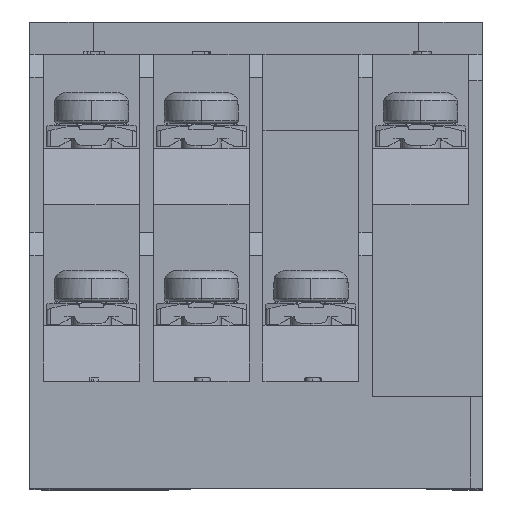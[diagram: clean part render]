
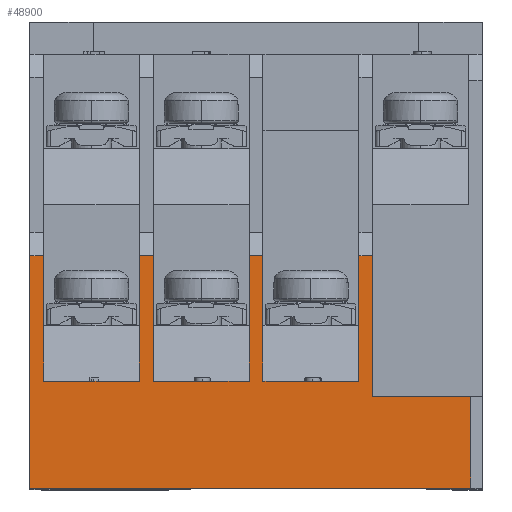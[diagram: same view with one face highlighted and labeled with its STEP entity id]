
A CAD part, top view. The second image highlights one B-rep face of the part: STEP entity #48900.
In plain terms, the highlighted planar face has unit normal (0, 0, 1).
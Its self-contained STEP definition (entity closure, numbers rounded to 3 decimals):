
#124 = LINE ( 'NONE', #10063, #84284 ) ;
#1497 = EDGE_CURVE ( 'NONE', #41073, #76070, #85433, .T. ) ;
#1560 = VECTOR ( 'NONE', #63555, 1000. ) ;
#1737 = VECTOR ( 'NONE', #48172, 1000. ) ;
#3684 = CARTESIAN_POINT ( 'NONE',  ( -3.788, -9.137, 0. ) ) ;
#7646 = DIRECTION ( 'NONE',  ( 0., 1., 0. ) ) ;
#8960 = ORIENTED_EDGE ( 'NONE', *, *, #79975, .T. ) ;
#9080 = CARTESIAN_POINT ( 'NONE',  ( -4.678, -9.137, 0. ) ) ;
#9344 = EDGE_CURVE ( 'NONE', #98336, #57571, #100919, .T. ) ;
#9501 = VERTEX_POINT ( 'NONE', #22966 ) ;
#10063 = CARTESIAN_POINT ( 'NONE',  ( 3.292, -10.137, 0. ) ) ;
#10866 = ORIENTED_EDGE ( 'NONE', *, *, #20566, .F. ) ;
#11107 = CARTESIAN_POINT ( 'NONE',  ( -18.838, -16.037, 0. ) ) ;
#11512 = VECTOR ( 'NONE', #7646, 1000. ) ;
#11533 = CARTESIAN_POINT ( 'NONE',  ( 3.292, -10.137, 0. ) ) ;
#13617 = DIRECTION ( 'NONE',  ( 0., 1., 0. ) ) ;
#14072 = DIRECTION ( 'NONE',  ( 0., -1., 0. ) ) ;
#14337 = CARTESIAN_POINT ( 'NONE',  ( -11.763, -1.037, 0. ) ) ;
#14615 = PLANE ( 'NONE',  #86785 ) ;
#14676 = DIRECTION ( 'NONE',  ( 0., 1., 0. ) ) ;
#16504 = CARTESIAN_POINT ( 'NONE',  ( 2.392, -9.137, 0. ) ) ;
#16980 = DIRECTION ( 'NONE',  ( -1., 0., 0. ) ) ;
#18905 = VECTOR ( 'NONE', #42689, 1000. ) ;
#19326 = EDGE_CURVE ( 'NONE', #41073, #25906, #124, .T. ) ;
#20155 = ORIENTED_EDGE ( 'NONE', *, *, #28303, .T. ) ;
#20465 = CARTESIAN_POINT ( 'NONE',  ( -10.858, -9.137, 0. ) ) ;
#20566 = EDGE_CURVE ( 'NONE', #32682, #92844, #56591, .T. ) ;
#22966 = CARTESIAN_POINT ( 'NONE',  ( -17.938, -1.037, 0. ) ) ;
#23709 = DIRECTION ( 'NONE',  ( 1., 0., 0. ) ) ;
#23936 = ORIENTED_EDGE ( 'NONE', *, *, #28213, .T. ) ;
#24738 = CARTESIAN_POINT ( 'NONE',  ( -10.858, -9.137, 0. ) ) ;
#25502 = LINE ( 'NONE', #51381, #81187 ) ;
#25906 = VERTEX_POINT ( 'NONE', #30996 ) ;
#27578 = CARTESIAN_POINT ( 'NONE',  ( -3.788, -9.137, 0. ) ) ;
#27955 = VERTEX_POINT ( 'NONE', #61177 ) ;
#28213 = EDGE_CURVE ( 'NONE', #69196, #74296, #83141, .T. ) ;
#28303 = EDGE_CURVE ( 'NONE', #25906, #91421, #92497, .T. ) ;
#29940 = LINE ( 'NONE', #46483, #1560 ) ;
#30996 = CARTESIAN_POINT ( 'NONE',  ( 3.292, -1.037, 0. ) ) ;
#32682 = VERTEX_POINT ( 'NONE', #97722 ) ;
#33333 = LINE ( 'NONE', #9080, #18905 ) ;
#33916 = LINE ( 'NONE', #67525, #70456 ) ;
#35493 = VECTOR ( 'NONE', #97628, 1000. ) ;
#37805 = FACE_OUTER_BOUND ( 'NONE', #107239, .T. ) ;
#40070 = CARTESIAN_POINT ( 'NONE',  ( -4.678, -9.137, 0. ) ) ;
#41073 = VERTEX_POINT ( 'NONE', #11533 ) ;
#42063 = CARTESIAN_POINT ( 'NONE',  ( -17.938, -1.037, 0. ) ) ;
#42689 = DIRECTION ( 'NONE',  ( 1., 0., 0. ) ) ;
#42970 = EDGE_CURVE ( 'NONE', #74296, #62753, #29940, .T. ) ;
#43105 = DIRECTION ( 'NONE',  ( 0., 1., 0. ) ) ;
#45855 = DIRECTION ( 'NONE',  ( 1., 0., 0. ) ) ;
#45940 = VECTOR ( 'NONE', #91540, 1000. ) ;
#46037 = VECTOR ( 'NONE', #59789, 1000. ) ;
#46185 = CARTESIAN_POINT ( 'NONE',  ( -10.858, -1.037, 0. ) ) ;
#46483 = CARTESIAN_POINT ( 'NONE',  ( 10.362, -1.037, 0. ) ) ;
#47279 = EDGE_CURVE ( 'NONE', #27955, #70360, #49068, .T. ) ;
#48172 = DIRECTION ( 'NONE',  ( 0., 1., 0. ) ) ;
#48215 = VECTOR ( 'NONE', #45855, 1000. ) ;
#48900 = ADVANCED_FACE ( 'NONE', ( #37805 ), #14615, .F. ) ;
#49068 = LINE ( 'NONE', #72246, #35493 ) ;
#50858 = DIRECTION ( 'NONE',  ( 0., 1., 0. ) ) ;
#50869 = CARTESIAN_POINT ( 'NONE',  ( -18.838, -16.037, 0. ) ) ;
#51381 = CARTESIAN_POINT ( 'NONE',  ( 9.612, -10.137, 0. ) ) ;
#51527 = LINE ( 'NONE', #67515, #46037 ) ;
#51793 = ORIENTED_EDGE ( 'NONE', *, *, #83591, .F. ) ;
#54125 = CARTESIAN_POINT ( 'NONE',  ( 2.392, -9.137, 0. ) ) ;
#54939 = CARTESIAN_POINT ( 'NONE',  ( -17.938, -9.137, 0. ) ) ;
#55962 = CARTESIAN_POINT ( 'NONE',  ( 10.362, -16.037, 0. ) ) ;
#56379 = CARTESIAN_POINT ( 'NONE',  ( 9.612, -10.137, 0. ) ) ;
#56591 = LINE ( 'NONE', #40070, #69068 ) ;
#57227 = ORIENTED_EDGE ( 'NONE', *, *, #61028, .F. ) ;
#57571 = VERTEX_POINT ( 'NONE', #86866 ) ;
#59511 = ORIENTED_EDGE ( 'NONE', *, *, #72407, .T. ) ;
#59521 = ORIENTED_EDGE ( 'NONE', *, *, #77581, .T. ) ;
#59789 = DIRECTION ( 'NONE',  ( -1., 0., 0. ) ) ;
#61028 = EDGE_CURVE ( 'NONE', #98336, #83549, #72780, .T. ) ;
#61177 = CARTESIAN_POINT ( 'NONE',  ( 9.612, -16.037, 0. ) ) ;
#61738 = VECTOR ( 'NONE', #92760, 1000. ) ;
#61754 = EDGE_CURVE ( 'NONE', #69196, #32682, #33333, .T. ) ;
#62373 = CARTESIAN_POINT ( 'NONE',  ( -11.763, -9.137, 0. ) ) ;
#62578 = VECTOR ( 'NONE', #16980, 1000. ) ;
#62753 = VERTEX_POINT ( 'NONE', #14337 ) ;
#63555 = DIRECTION ( 'NONE',  ( -1., 0., 0. ) ) ;
#63575 = ORIENTED_EDGE ( 'NONE', *, *, #1497, .F. ) ;
#63685 = DIRECTION ( 'NONE',  ( 0., 0., -1. ) ) ;
#66484 = ORIENTED_EDGE ( 'NONE', *, *, #47279, .F. ) ;
#67396 = LINE ( 'NONE', #93836, #61738 ) ;
#67515 = CARTESIAN_POINT ( 'NONE',  ( 10.362, -1.037, 0. ) ) ;
#67525 = CARTESIAN_POINT ( 'NONE',  ( -11.763, -9.137, 0. ) ) ;
#69068 = VECTOR ( 'NONE', #13617, 1000. ) ;
#69196 = VERTEX_POINT ( 'NONE', #20465 ) ;
#69561 = LINE ( 'NONE', #50869, #73602 ) ;
#70360 = VERTEX_POINT ( 'NONE', #11107 ) ;
#70456 = VECTOR ( 'NONE', #14676, 1000. ) ;
#70644 = LINE ( 'NONE', #62373, #48215 ) ;
#71914 = ORIENTED_EDGE ( 'NONE', *, *, #79474, .F. ) ;
#71983 = ORIENTED_EDGE ( 'NONE', *, *, #9344, .T. ) ;
#72246 = CARTESIAN_POINT ( 'NONE',  ( 10.362, -16.037, 0. ) ) ;
#72407 = EDGE_CURVE ( 'NONE', #9501, #83876, #51527, .T. ) ;
#72780 = LINE ( 'NONE', #16504, #78681 ) ;
#73602 = VECTOR ( 'NONE', #76206, 1000. ) ;
#73627 = ORIENTED_EDGE ( 'NONE', *, *, #19326, .T. ) ;
#74296 = VERTEX_POINT ( 'NONE', #46185 ) ;
#74576 = LINE ( 'NONE', #42063, #1737 ) ;
#75939 = CARTESIAN_POINT ( 'NONE',  ( 10.362, -1.037, 0. ) ) ;
#76070 = VERTEX_POINT ( 'NONE', #56379 ) ;
#76206 = DIRECTION ( 'NONE',  ( 0., -1., 0. ) ) ;
#77145 = DIRECTION ( 'NONE',  ( 0., 1., 0. ) ) ;
#77367 = ORIENTED_EDGE ( 'NONE', *, *, #96915, .T. ) ;
#77581 = EDGE_CURVE ( 'NONE', #27955, #76070, #25502, .T. ) ;
#78681 = VECTOR ( 'NONE', #23709, 1000. ) ;
#79474 = EDGE_CURVE ( 'NONE', #92617, #62753, #33916, .T. ) ;
#79975 = EDGE_CURVE ( 'NONE', #57571, #92844, #67396, .T. ) ;
#80141 = EDGE_CURVE ( 'NONE', #83549, #91421, #106480, .T. ) ;
#81092 = VECTOR ( 'NONE', #92625, 1000. ) ;
#81187 = VECTOR ( 'NONE', #43105, 1000. ) ;
#82178 = CARTESIAN_POINT ( 'NONE',  ( 2.392, -9.137, 0. ) ) ;
#83141 = LINE ( 'NONE', #24738, #11512 ) ;
#83549 = VERTEX_POINT ( 'NONE', #54125 ) ;
#83591 = EDGE_CURVE ( 'NONE', #83885, #92617, #70644, .T. ) ;
#83680 = ORIENTED_EDGE ( 'NONE', *, *, #80141, .F. ) ;
#83876 = VERTEX_POINT ( 'NONE', #105101 ) ;
#83885 = VERTEX_POINT ( 'NONE', #54939 ) ;
#84284 = VECTOR ( 'NONE', #50858, 1000. ) ;
#85433 = LINE ( 'NONE', #103077, #81092 ) ;
#86785 = AXIS2_PLACEMENT_3D ( 'NONE', #55962, #63685, #14072 ) ;
#86866 = CARTESIAN_POINT ( 'NONE',  ( -3.788, -1.037, 0. ) ) ;
#89671 = CARTESIAN_POINT ( 'NONE',  ( -11.763, -9.137, 0. ) ) ;
#91421 = VERTEX_POINT ( 'NONE', #97821 ) ;
#91540 = DIRECTION ( 'NONE',  ( 0., 1., 0. ) ) ;
#92497 = LINE ( 'NONE', #75939, #62578 ) ;
#92617 = VERTEX_POINT ( 'NONE', #89671 ) ;
#92625 = DIRECTION ( 'NONE',  ( 1., 0., 0. ) ) ;
#92760 = DIRECTION ( 'NONE',  ( -1., 0., 0. ) ) ;
#92844 = VERTEX_POINT ( 'NONE', #102823 ) ;
#93836 = CARTESIAN_POINT ( 'NONE',  ( 10.362, -1.037, 0. ) ) ;
#95777 = VECTOR ( 'NONE', #77145, 1000. ) ;
#96915 = EDGE_CURVE ( 'NONE', #83876, #70360, #69561, .T. ) ;
#97628 = DIRECTION ( 'NONE',  ( -1., 0., 0. ) ) ;
#97722 = CARTESIAN_POINT ( 'NONE',  ( -4.678, -9.137, 0. ) ) ;
#97821 = CARTESIAN_POINT ( 'NONE',  ( 2.392, -1.037, 0. ) ) ;
#98336 = VERTEX_POINT ( 'NONE', #27578 ) ;
#100919 = LINE ( 'NONE', #3684, #95777 ) ;
#101332 = ORIENTED_EDGE ( 'NONE', *, *, #61754, .F. ) ;
#102073 = EDGE_CURVE ( 'NONE', #83885, #9501, #74576, .T. ) ;
#102748 = ORIENTED_EDGE ( 'NONE', *, *, #102073, .T. ) ;
#102823 = CARTESIAN_POINT ( 'NONE',  ( -4.678, -1.037, 0. ) ) ;
#103077 = CARTESIAN_POINT ( 'NONE',  ( 10.362, -10.137, 0. ) ) ;
#105101 = CARTESIAN_POINT ( 'NONE',  ( -18.838, -1.037, 0. ) ) ;
#106480 = LINE ( 'NONE', #82178, #45940 ) ;
#107239 = EDGE_LOOP ( 'NONE', ( #66484, #59521, #63575, #73627, #20155, #83680, #57227, #71983, #8960, #10866, #101332, #23936, #107515, #71914, #51793, #102748, #59511, #77367 ) ) ;
#107515 = ORIENTED_EDGE ( 'NONE', *, *, #42970, .T. ) ;
